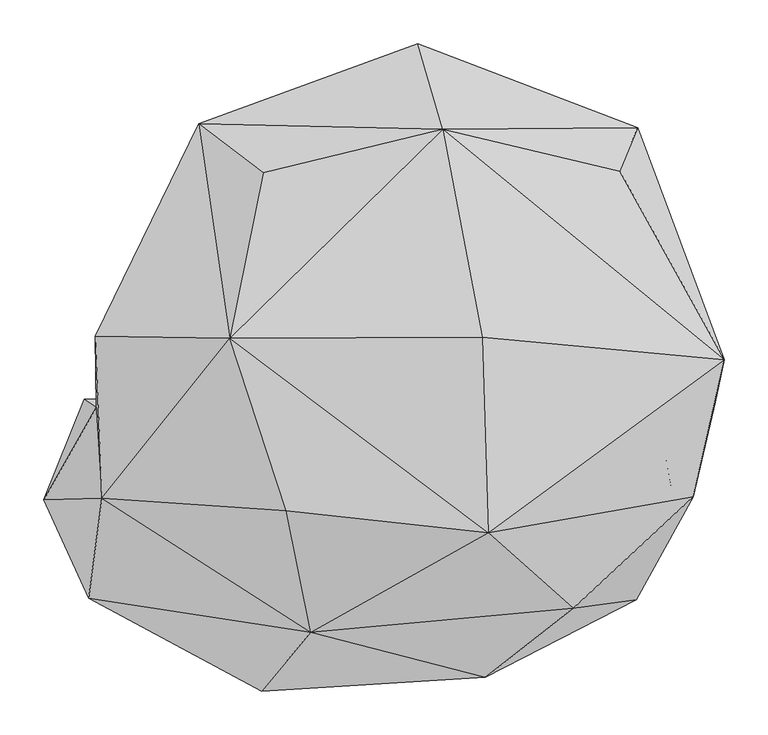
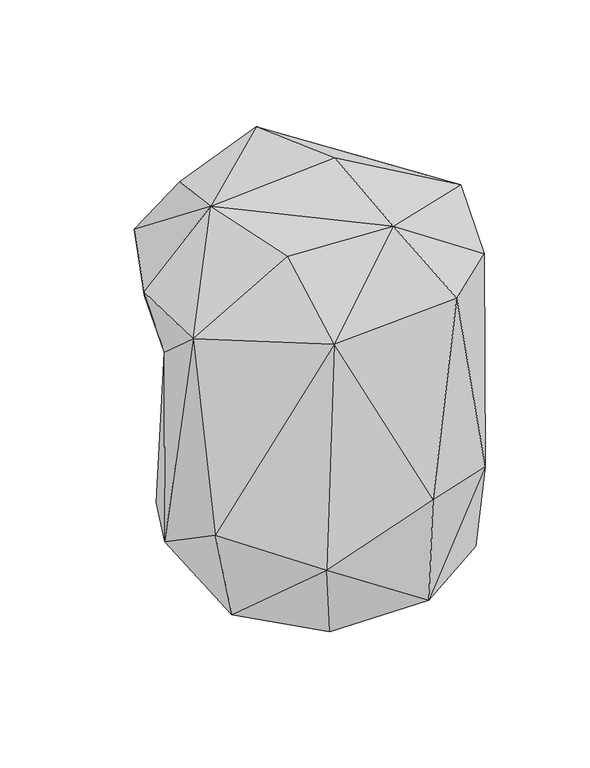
"""IFC4 building model written with IfcOpenShell, lengths in millimetres: geographic element geometry, Enscape AssetDefinition - Creeper Plant 016 Bower Vine : Enscape AssetDefinition - Creeper Plant 016 Bower Vine 3."""

from ifc_helpers import new_model, si_unit, origin, place, context, project, spatial, triangles, source, transform, mapped, element, save


def geographic_element_ddb3373a(model_context):
    return source(origin(), model_context, "Body", "Tessellation", [
        triangles([(-358.6427891, -9.178606, 26.5941344), (349.2158572, -3.5811614, -2.6833632), (280.3989095, 0.0, -203.0603707), (323.7314389, -111.5413839, 90.3014376), (298.8313418, -99.9151495, -195.3939782), (-372.2539132, -0.0025078, -343.2384968), (280.6998359, 0.0, -460.9203034), (258.4918709, -228.7943377, -337.7263332), (234.2714016, -232.2124794, -521.1617935), (86.232509, -317.7691575, -304.3673593), (317.8142856, -108.451765, -511.1092458), (197.3676222, -107.7407892, -645.2785635), (164.2418826, 0.0, -611.7227629), (-106.894411, -236.7027213, -609.4055715), (-77.4012348, 0.0, -636.6604849), (-54.2578528, -102.4631044, -689.2857611), (-277.1650771, 0.0, -526.2413527), (-298.7159782, -174.809824, -537.3998649), (-418.6987164, -114.9495152, -353.2873384), (-169.5371444, -333.4505041, -377.7247639), (-367.1530618, -227.1040521, -286.6383542), (111.4749272, -256.8191714, -596.0927939), (-352.0960957, -113.0473239, 120.0403745), (-205.8866698, 69.7248093, 281.8446606), (89.530291, -152.3234876, 264.9833715), (-113.2717742, -266.217217, 115.9288159), (186.5865216, -238.8406358, 107.1150915), (-141.2301604, -127.5124021, 257.339543), (239.6293595, 260.9131803, 137.1449355), (359.2609563, 45.1406858, 151.9949648), (37.7213144, 308.5528959, 246.6524773), (82.4482105, 70.9373398, 300.0000023), (-167.7891769, 258.9244935, 214.8445896), (9.0419314, 406.4304608, 38.2918442), (260.5043934, 310.1767067, 0.0), (-241.7033063, 314.8913898, 90.3729085), (4.7698658, 390.3477942, 0.0), (-124.3262321, 333.4279401, 0.0), (-279.5663113, 209.5154818, 5.683965), (-359.7449747, 71.833883, 125.9487984)], [[40, 39, 1], [40, 36, 39], [36, 40, 24], [33, 36, 24], [38, 39, 36], [36, 37, 38], [36, 34, 37], [34, 35, 37], [38, 37, 35], [35, 39, 38], [35, 1, 39], [35, 34, 31], [31, 33, 24], [33, 31, 36], [29, 35, 31], [34, 36, 31], [31, 24, 32], [30, 31, 32], [29, 30, 35], [30, 29, 31], [24, 25, 32], [25, 30, 32], [24, 28, 25], [10, 27, 26], [25, 28, 26], [26, 27, 25], [40, 1, 23], [26, 28, 23], [28, 24, 23], [40, 23, 24], [1, 19, 23], [23, 19, 21], [26, 23, 21], [10, 20, 22], [21, 20, 26], [10, 26, 20], [22, 20, 14], [20, 21, 18], [20, 18, 14], [18, 21, 19], [19, 17, 18], [1, 6, 19], [6, 17, 19], [15, 17, 6], [17, 16, 18], [17, 15, 16], [16, 22, 14], [16, 14, 18], [22, 12, 9], [16, 12, 22], [15, 13, 16], [12, 16, 13], [6, 13, 15], [6, 7, 13], [13, 7, 11], [11, 12, 13], [11, 9, 12], [8, 10, 22], [11, 8, 9], [8, 27, 10], [8, 22, 9], [27, 8, 4], [4, 30, 25], [4, 25, 27], [7, 5, 11], [5, 4, 8], [5, 8, 11], [7, 3, 5], [6, 3, 7], [3, 2, 5], [2, 35, 30], [2, 4, 5], [4, 2, 30], [6, 2, 3], [6, 1, 2], [35, 2, 1]]),
    ])


if __name__ == "__main__":
    model = new_model("IFC4")
    model_context = context("Model", 3, world=origin())
    ifc_project = project(units=[si_unit("LENGTHUNIT", "METRE", prefix="MILLI")], contexts=[model_context])
    site = spatial("IfcSite", under=ifc_project)
    building = spatial("IfcBuilding", under=site)
    placement = place(None, origin())
    geographic_element_shape = geographic_element_ddb3373a(model_context)
    element("IfcGeographicElement", 1, ObjectType="Enscape AssetDefinition - Creeper Plant 016 Bower Vine : Enscape AssetDefinition - Creeper Plant 016 Bower Vine 3", at=placement, inside=building, context=model_context, shape_type="MappedRepresentation", body=[
        mapped(geographic_element_shape, transform((0.0, 0.0, 0.0), x_axis=(1.0, 0.0, 0.0), y_axis=(0.0, 1.0, 0.0), z_axis=(0.0, 0.0, 1.0))),
    ])
    save(model, "model.ifc")
